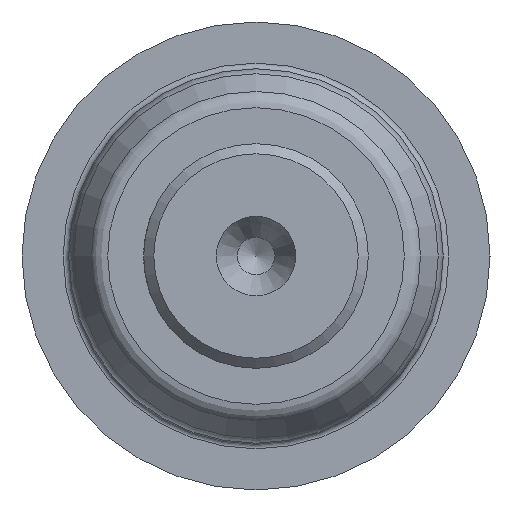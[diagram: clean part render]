
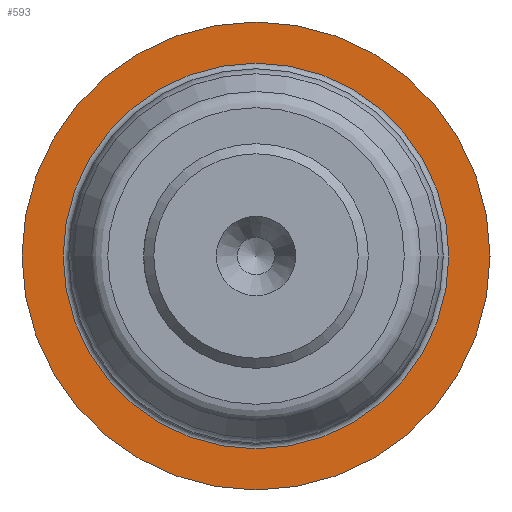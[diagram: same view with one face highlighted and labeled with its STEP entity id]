
A CAD part, left-side view. The second image highlights one B-rep face of the part: STEP entity #593.
In plain terms, the highlighted planar face has unit normal (-1, 0, 0).
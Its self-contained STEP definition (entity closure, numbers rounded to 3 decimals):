
#45=FACE_BOUND('',#125,.T.);
#57=PLANE('',#680);
#82=FACE_OUTER_BOUND('',#124,.T.);
#124=EDGE_LOOP('',(#503));
#125=EDGE_LOOP('',(#504));
#230=CIRCLE('',#679,10.3);
#231=CIRCLE('',#681,12.5);
#289=VERTEX_POINT('',#1102);
#290=VERTEX_POINT('',#1106);
#364=EDGE_CURVE('',#289,#289,#230,.T.);
#365=EDGE_CURVE('',#290,#290,#231,.T.);
#503=ORIENTED_EDGE('',*,*,#365,.F.);
#504=ORIENTED_EDGE('',*,*,#364,.T.);
#593=ADVANCED_FACE('',(#82,#45),#57,.T.);
#679=AXIS2_PLACEMENT_3D('',#1104,#834,#835);
#680=AXIS2_PLACEMENT_3D('',#1105,#836,#837);
#681=AXIS2_PLACEMENT_3D('',#1107,#838,#839);
#834=DIRECTION('center_axis',(1.,0.,0.));
#835=DIRECTION('ref_axis',(0.,0.,-1.));
#836=DIRECTION('center_axis',(-1.,0.,0.));
#837=DIRECTION('ref_axis',(0.,0.,1.));
#838=DIRECTION('center_axis',(1.,0.,0.));
#839=DIRECTION('ref_axis',(0.,0.,-1.));
#1102=CARTESIAN_POINT('',(68.,0.,10.3));
#1104=CARTESIAN_POINT('Origin',(68.,0.,0.));
#1105=CARTESIAN_POINT('Origin',(68.,12.5,0.));
#1106=CARTESIAN_POINT('',(68.,-12.5,0.));
#1107=CARTESIAN_POINT('Origin',(68.,0.,0.));
